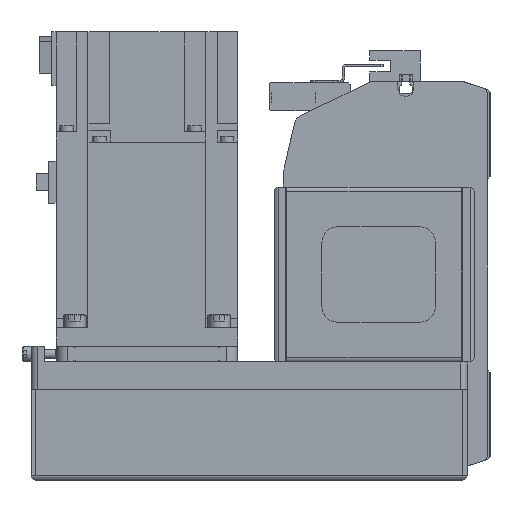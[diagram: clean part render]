
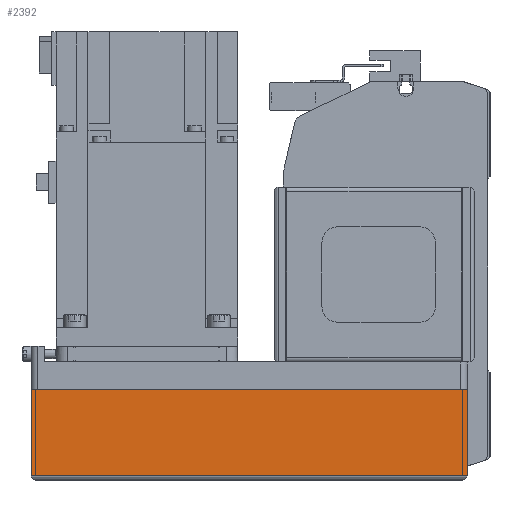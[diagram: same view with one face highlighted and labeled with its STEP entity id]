
A CAD part, left-side view. The second image highlights one B-rep face of the part: STEP entity #2392.
In plain terms, the highlighted planar face has unit normal (-1, 0, 0) as drawn and (0, -1, 0) by its records, which use the part's own axes.
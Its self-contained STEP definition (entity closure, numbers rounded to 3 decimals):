
#2392 = ADVANCED_FACE( '', ( #5300 ), #5301, .T. );
#5300 = FACE_OUTER_BOUND( '', #8670, .T. );
#5301 = PLANE( '', #8671 );
#8670 = EDGE_LOOP( '', ( #15365, #15366, #15367, #15368 ) );
#8671 = AXIS2_PLACEMENT_3D( '', #15369, #15370, #15371 );
#15365 = ORIENTED_EDGE( '', *, *, #21823, .F. );
#15366 = ORIENTED_EDGE( '', *, *, #21061, .F. );
#15367 = ORIENTED_EDGE( '', *, *, #20086, .T. );
#15368 = ORIENTED_EDGE( '', *, *, #20113, .T. );
#15369 = CARTESIAN_POINT( '', ( -192., -40., -12.1 ) );
#15370 = DIRECTION( '', ( 0., -1., 0. ) );
#15371 = DIRECTION( '', ( 0., 0., -1. ) );
#20086 = EDGE_CURVE( '', #24333, #24331, #24334, .T. );
#20113 = EDGE_CURVE( '', #24331, #24373, #24375, .T. );
#21061 = EDGE_CURVE( '', #24333, #25888, #25889, .T. );
#21823 = EDGE_CURVE( '', #25888, #24373, #26957, .T. );
#24331 = VERTEX_POINT( '', #30165 );
#24333 = VERTEX_POINT( '', #30168 );
#24334 = LINE( '', #30169, #30170 );
#24373 = VERTEX_POINT( '', #30223 );
#24375 = LINE( '', #30225, #30226 );
#25888 = VERTEX_POINT( '', #32509 );
#25889 = LINE( '', #32510, #32511 );
#26957 = LINE( '', #34180, #34181 );
#30165 = CARTESIAN_POINT( '', ( -192., -40., -50. ) );
#30168 = CARTESIAN_POINT( '', ( -192., -40., -12.1 ) );
#30169 = CARTESIAN_POINT( '', ( -192., -40., -12.1 ) );
#30170 = VECTOR( '', #37018, 1000. );
#30223 = CARTESIAN_POINT( '', ( 0., -40., -50. ) );
#30225 = CARTESIAN_POINT( '', ( -192., -40., -50. ) );
#30226 = VECTOR( '', #37048, 1000. );
#32509 = CARTESIAN_POINT( '', ( 0., -40., -12.1 ) );
#32510 = CARTESIAN_POINT( '', ( -192., -40., -12.1 ) );
#32511 = VECTOR( '', #38256, 1000. );
#34180 = CARTESIAN_POINT( '', ( 0., -40., -12.1 ) );
#34181 = VECTOR( '', #39146, 1000. );
#37018 = DIRECTION( '', ( 0., 0., -1. ) );
#37048 = DIRECTION( '', ( 1., 0., 0. ) );
#38256 = DIRECTION( '', ( 1., 0., 0. ) );
#39146 = DIRECTION( '', ( 0., 0., -1. ) );
